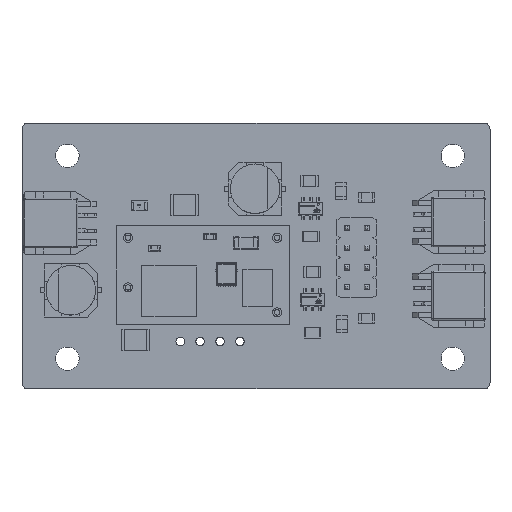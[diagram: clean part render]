
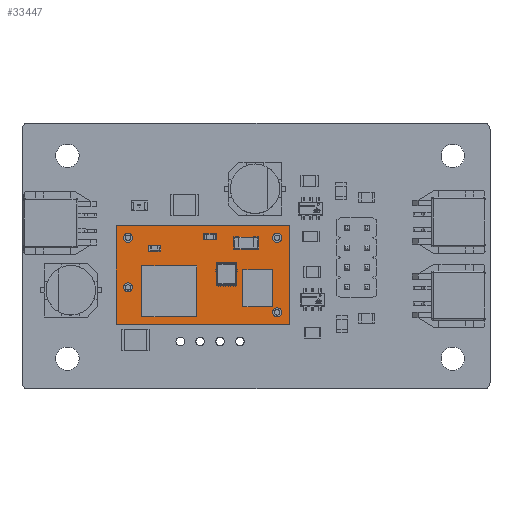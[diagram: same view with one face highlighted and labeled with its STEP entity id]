
A CAD part, top view. The second image highlights one B-rep face of the part: STEP entity #33447.
In plain terms, the highlighted planar face has unit normal (0, 0, 1).
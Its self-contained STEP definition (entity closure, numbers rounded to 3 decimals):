
#33357 = VERTEX_POINT('',#33358);
#33358 = CARTESIAN_POINT('',(18.283,22.57,
    2.799));
#33366 = EDGE_CURVE('',#33357,#33367,#33369,.T.);
#33367 = VERTEX_POINT('',#33368);
#33368 = CARTESIAN_POINT('',(40.381,22.57,
    2.799));
#33369 = LINE('',#33370,#33371);
#33370 = CARTESIAN_POINT('',(18.283,22.57,
    2.799));
#33371 = VECTOR('',#33372,1.);
#33372 = DIRECTION('',(1.,0.,0.));
#33428 = VERTEX_POINT('',#33429);
#33429 = CARTESIAN_POINT('',(18.283,9.997,
    2.799));
#33435 = EDGE_CURVE('',#33428,#33357,#33436,.T.);
#33436 = LINE('',#33437,#33438);
#33437 = CARTESIAN_POINT('',(18.283,9.997,
    2.799));
#33438 = VECTOR('',#33439,1.);
#33439 = DIRECTION('',(0.,1.,0.));
#33447 = ADVANCED_FACE('',(#33448),#33466,.T.);
#33448 = FACE_BOUND('',#33449,.T.);
#33449 = EDGE_LOOP('',(#33450,#33451,#33452,#33460));
#33450 = ORIENTED_EDGE('',*,*,#33366,.F.);
#33451 = ORIENTED_EDGE('',*,*,#33435,.F.);
#33452 = ORIENTED_EDGE('',*,*,#33453,.F.);
#33453 = EDGE_CURVE('',#33454,#33428,#33456,.T.);
#33454 = VERTEX_POINT('',#33455);
#33455 = CARTESIAN_POINT('',(40.381,9.997,
    2.799));
#33456 = LINE('',#33457,#33458);
#33457 = CARTESIAN_POINT('',(40.381,9.997,
    2.799));
#33458 = VECTOR('',#33459,1.);
#33459 = DIRECTION('',(-1.,0.,0.));
#33460 = ORIENTED_EDGE('',*,*,#33461,.F.);
#33461 = EDGE_CURVE('',#33367,#33454,#33462,.T.);
#33462 = LINE('',#33463,#33464);
#33463 = CARTESIAN_POINT('',(40.381,22.57,
    2.799));
#33464 = VECTOR('',#33465,1.);
#33465 = DIRECTION('',(0.,-1.,0.));
#33466 = PLANE('',#33467);
#33467 = AXIS2_PLACEMENT_3D('',#33468,#33469,#33470);
#33468 = CARTESIAN_POINT('',(29.332,16.284,
    2.799));
#33469 = DIRECTION('',(0.,0.,1.));
#33470 = DIRECTION('',(-1.,0.,0.));
